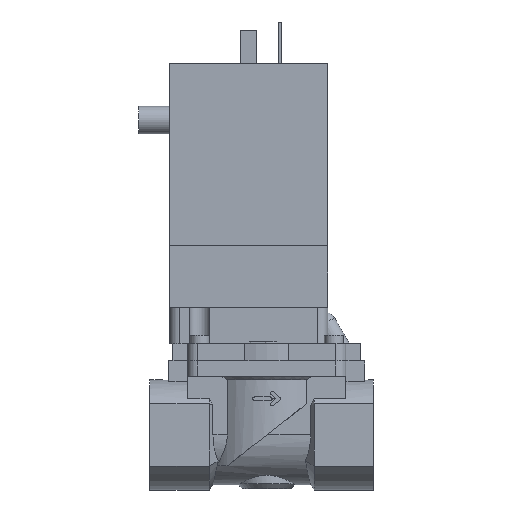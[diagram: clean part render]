
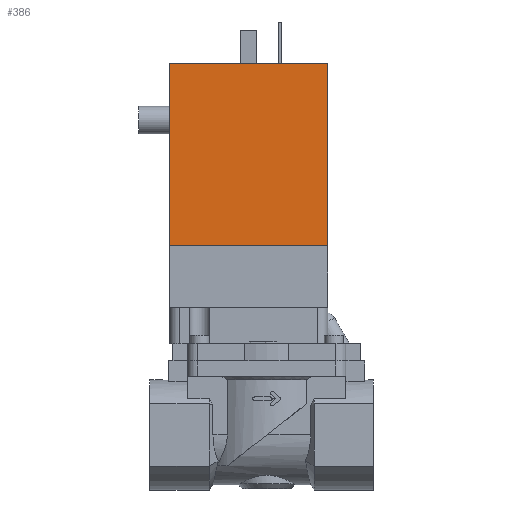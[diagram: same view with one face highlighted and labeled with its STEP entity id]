
A CAD part, top view. The second image highlights one B-rep face of the part: STEP entity #386.
In plain terms, the highlighted planar face has unit normal (0, 0, 1) as drawn and (0, 0, -1) by its records, which use the part's own axes.
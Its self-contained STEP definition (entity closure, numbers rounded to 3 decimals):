
#386 = ADVANCED_FACE( '', ( #904 ), #905, .F. );
#904 = FACE_OUTER_BOUND( '', #1588, .T. );
#905 = PLANE( '', #1589 );
#1588 = EDGE_LOOP( '', ( #2518, #2519, #2520, #2521 ) );
#1589 = AXIS2_PLACEMENT_3D( '', #2522, #2523, #2524 );
#2518 = ORIENTED_EDGE( '', *, *, #4289, .T. );
#2519 = ORIENTED_EDGE( '', *, *, #4290, .F. );
#2520 = ORIENTED_EDGE( '', *, *, #4126, .F. );
#2521 = ORIENTED_EDGE( '', *, *, #4291, .T. );
#2522 = CARTESIAN_POINT( '', ( 23., 71., -17. ) );
#2523 = DIRECTION( '', ( 0., 0., 1. ) );
#2524 = DIRECTION( '', ( 1., 0., 0. ) );
#4126 = EDGE_CURVE( '', #4935, #4930, #4937, .T. );
#4289 = EDGE_CURVE( '', #5212, #5213, #5214, .T. );
#4290 = EDGE_CURVE( '', #4930, #5213, #5215, .T. );
#4291 = EDGE_CURVE( '', #4935, #5212, #5216, .T. );
#4930 = VERTEX_POINT( '', #6237 );
#4935 = VERTEX_POINT( '', #6244 );
#4937 = LINE( '', #6247, #6248 );
#5212 = VERTEX_POINT( '', #6709 );
#5213 = VERTEX_POINT( '', #6710 );
#5214 = LINE( '', #6711, #6712 );
#5215 = LINE( '', #6713, #6714 );
#5216 = LINE( '', #6715, #6716 );
#6237 = CARTESIAN_POINT( '', ( -23., 71., -17. ) );
#6244 = CARTESIAN_POINT( '', ( 23., 71., -17. ) );
#6247 = CARTESIAN_POINT( '', ( 23., 71., -17. ) );
#6248 = VECTOR( '', #7854, 1000. );
#6709 = CARTESIAN_POINT( '', ( 23., 18., -17. ) );
#6710 = CARTESIAN_POINT( '', ( -23., 18., -17. ) );
#6711 = CARTESIAN_POINT( '', ( 23., 18., -17. ) );
#6712 = VECTOR( '', #8036, 1000. );
#6713 = CARTESIAN_POINT( '', ( -23., 71., -17. ) );
#6714 = VECTOR( '', #8037, 1000. );
#6715 = CARTESIAN_POINT( '', ( 23., 71., -17. ) );
#6716 = VECTOR( '', #8038, 1000. );
#7854 = DIRECTION( '', ( -1., 0., 0. ) );
#8036 = DIRECTION( '', ( -1., 0., 0. ) );
#8037 = DIRECTION( '', ( 0., -1., 0. ) );
#8038 = DIRECTION( '', ( 0., -1., 0. ) );
